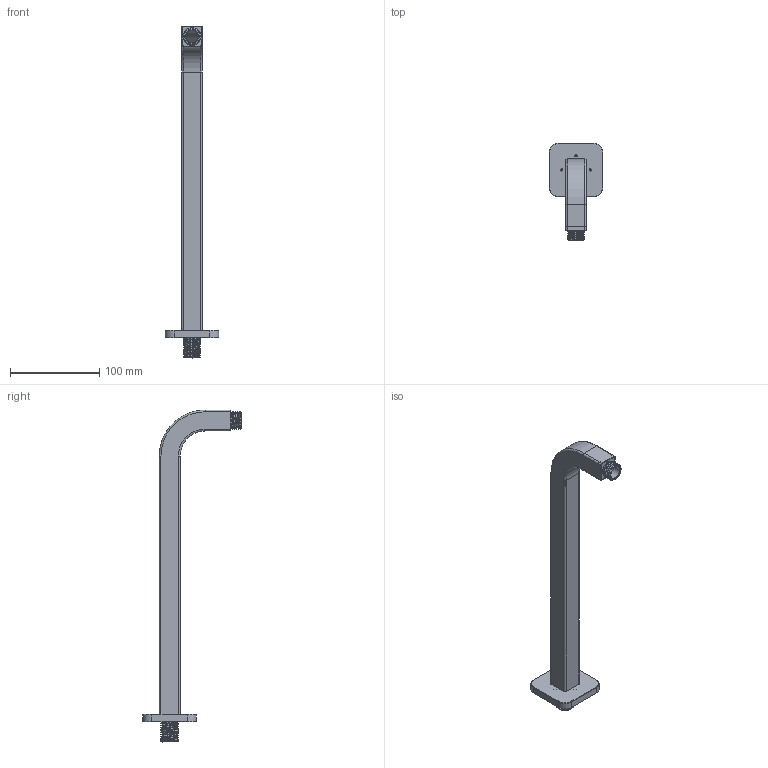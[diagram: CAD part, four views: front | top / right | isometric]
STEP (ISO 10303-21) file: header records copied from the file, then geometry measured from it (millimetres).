
FILE_DESCRIPTION(/* description */ (''),/* implementation_level */ '2;1');
FILE_NAME(/* name */ 'c:\worker\convert-fusion-apr-2019\tmp\job-1\6\output\files\1e631e90-ba2d-43fb-8720-19d7ed59cdf3\641b7220-c160-4704-85f4-e22a9e5ad02a.stp',/* time_stamp */ '2019-04-10T10:43:01+00:00',/* author */ (''),/* organization */ (''),/* preprocessor_version */ 'ST-DEVELOPER v18',/* originating_system */ 'Autodesk Translation Framework v8.2.0.1029',/* authorisation */ '');
FILE_SCHEMA (('AUTOMOTIVE_DESIGN { 1 0 10303 214 3 1 1 }'));
Length unit declared in the file: millimetre
Products named in the file (1): !RA15
Bounding box: 60 x 110.25 x 373 mm (x, y, z)
Volume: 53002.1 mm3; surface area: 88467.8 mm2
Topology: 9 solids, 9 shells, 268 faces, 708 edges, 471 vertices
Faces by surface type: plane 127, cylinder 97, cone 24, torus 16, bspline 4
Full cylindrical faces by diameter (mm): 2.5 x4, 3 x4, 3.5 x4, 14 x2, 16.938 x11, 18 x2, 19.791 x10
Entity records: 11848 total; most frequent: CARTESIAN_POINT 5013, DIRECTION 1427, ORIENTED_EDGE 1416, EDGE_CURVE 708, AXIS2_PLACEMENT_3D 517, VERTEX_POINT 471, LINE 393, VECTOR 393
